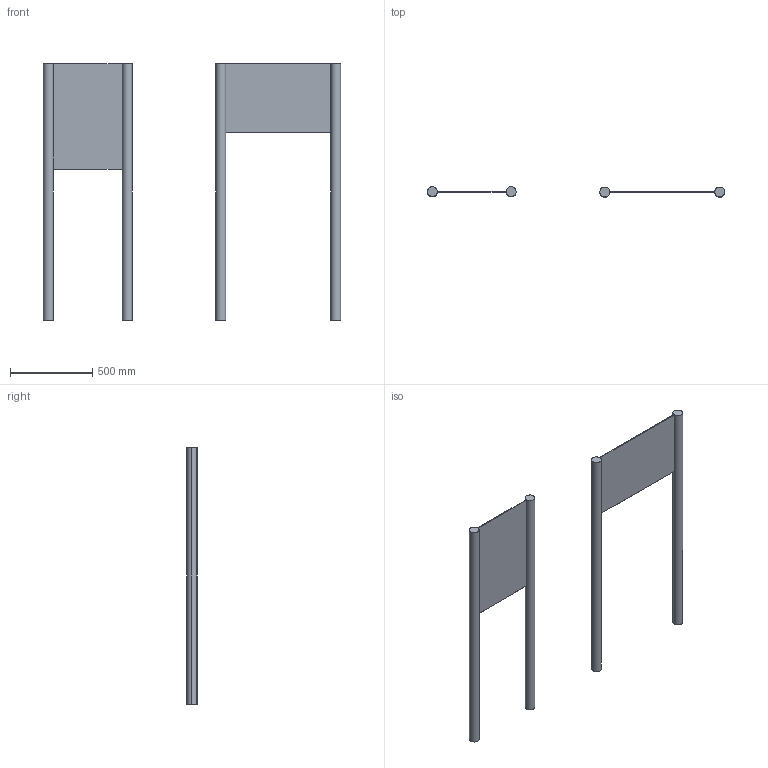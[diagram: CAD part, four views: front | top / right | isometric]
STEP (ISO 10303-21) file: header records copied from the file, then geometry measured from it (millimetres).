
FILE_DESCRIPTION(/* description */ (''),/* implementation_level */ '2;1');
FILE_NAME(/* name */ 'C5_H~QP!',/* time_stamp */ '2021-12-29T15:53:53+02:00',/* author */ (''),/* organization */ (''),/* preprocessor_version */ 'ST-DEVELOPER v16.5',/* originating_system */ '',/* authorisation */ '');
FILE_SCHEMA (('AUTOMOTIVE_DESIGN'));
Length unit declared in the file: millimetre
Products named in the file (1): Document
Bounding box: 1810 x 62.39 x 1560 mm (x, y, z)
Volume: 20356942.2 mm3; surface area: 2296886.5 mm2
Topology: 6 solids, 6 shells, 28 faces, 49 edges, 34 vertices
Faces by surface type: plane 20, bspline 8
Entity records: 731 total; most frequent: CARTESIAN_POINT 282, ORIENTED_EDGE 96, EDGE_CURVE 48, VERTEX_POINT 32, B_SPLINE_CURVE_WITH_KNOTS 29, ADVANCED_FACE 28, FACE_OUTER_BOUND 28, EDGE_LOOP 28
